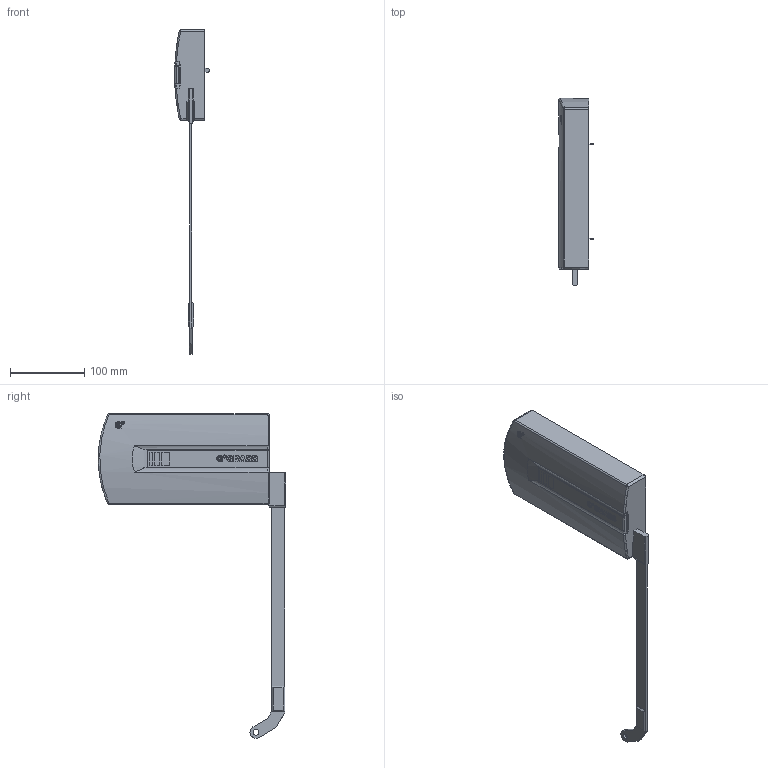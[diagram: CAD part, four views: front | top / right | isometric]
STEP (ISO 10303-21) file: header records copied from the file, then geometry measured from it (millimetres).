
FILE_DESCRIPTION (( 'STEP AP203' ), '1' );
FILE_NAME ('Kinvaro_F-20_Typ6_rechts_D2876028125~a.step', '2012-05-04T06:27:30', ( 'admin' ), ( 'Hewlett-Packard Company' ), 'SwSTEP 2.0', 'SolidWorks 2011', '' );
FILE_SCHEMA (( 'CONFIG_CONTROL_DESIGN' ));
Length unit declared in the file: millimetre
Products named in the file (1): Kinvaro_F-20_Typ6_rechts_D2876028125~a
Bounding box: 46.99 x 252.97 x 438.5 mm (x, y, z)
Volume: 1093267.3 mm3; surface area: 99193.7 mm2
Topology: 1 solids, 1 shells, 417 faces, 1151 edges, 755 vertices
Faces by surface type: cylinder 229, plane 172, torus 8, bspline 4, sphere 4
Entity records: 14118 total; most frequent: CARTESIAN_POINT 3462, ORIENTED_EDGE 2296, DIRECTION 2163, EDGE_CURVE 1148, AXIS2_PLACEMENT_3D 773, VERTEX_POINT 755, LINE 617, VECTOR 617
